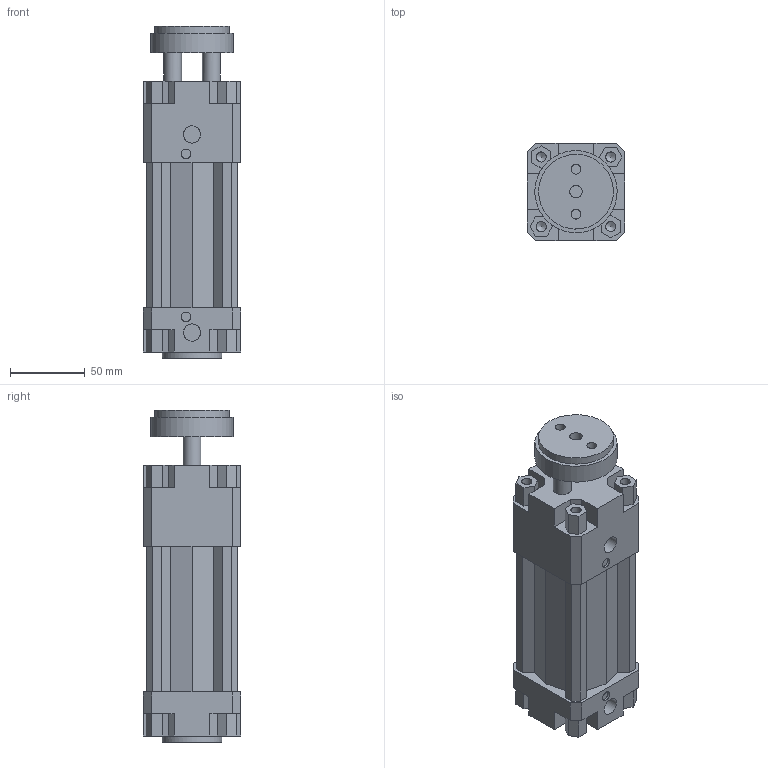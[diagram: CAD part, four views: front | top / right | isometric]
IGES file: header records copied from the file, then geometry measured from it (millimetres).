
Global section: file name: 134#_050_0050_01; native system: Autodesk Inventor 2014; preprocessor: unknown; author: A. Manieri; date: 20161006.164321; units: millimetre
Bounding box: 65 x 65 x 222 mm (x, y, z)
Volume: 569453.9 mm3; surface area: 118216.7 mm2
Topology: 2 solids, 2 shells, 180 faces, 492 edges, 336 vertices
Faces by surface type: bspline 180
